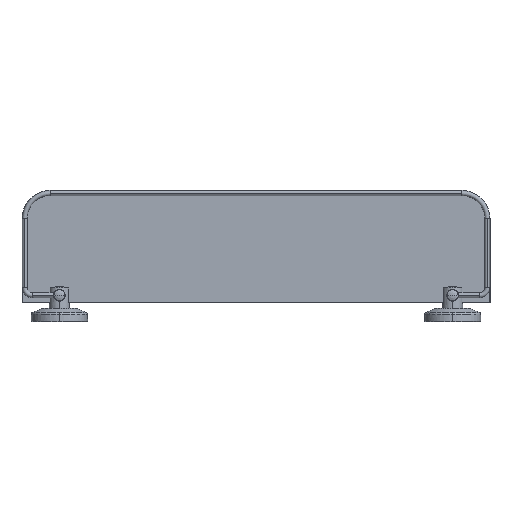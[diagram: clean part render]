
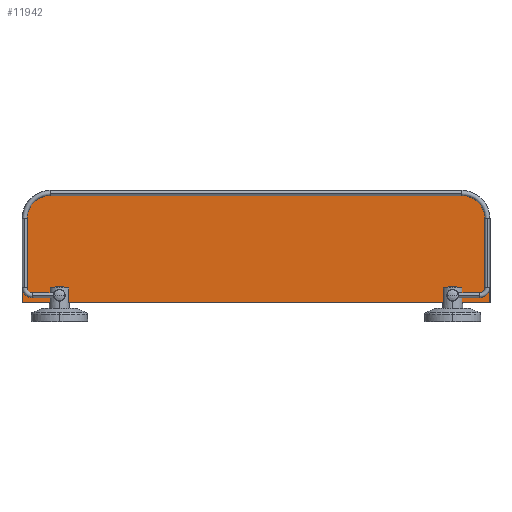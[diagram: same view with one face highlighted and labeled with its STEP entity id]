
A CAD part, top view. The second image highlights one B-rep face of the part: STEP entity #11942.
In plain terms, the highlighted planar face has unit normal (0, 0, 1).
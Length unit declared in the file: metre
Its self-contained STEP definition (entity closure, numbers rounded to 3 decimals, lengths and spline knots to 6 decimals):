
#11942=ADVANCED_FACE('',(#11948),#11943,.F.);
#11943=PLANE('',#11944);
#11944=AXIS2_PLACEMENT_3D('',#11945,#11946,#11947);
#11945=CARTESIAN_POINT('',(-0.21,0.0061,0.004));
#11946=DIRECTION('',(0.0,0.0,-1.0));
#11947=DIRECTION('',(1.0,0.0,0.0));
#11948=FACE_OUTER_BOUND('',#11949,.T.);
#11949=EDGE_LOOP('',(#11950,#11960,#11968,#11976,#11985,#11993));
#11950=ORIENTED_EDGE('',*,*,#11951,.T.);
#11951=EDGE_CURVE('',#11952,#11954,#11956,.T.);
#11952=VERTEX_POINT('',#11953);
#11953=CARTESIAN_POINT('',(-0.4595,0.0961,0.004));
#11954=VERTEX_POINT('',#11955);
#11955=CARTESIAN_POINT('',(-0.4595,0.0066,0.004));
#11956=LINE('',#11957,#11958);
#11957=CARTESIAN_POINT('',(-0.4595,0.0061,0.004));
#11958=VECTOR('',#11959,1.0);
#11959=DIRECTION('',(0.0,-1.0,0.0));
#11960=ORIENTED_EDGE('',*,*,#11961,.T.);
#11961=EDGE_CURVE('',#11954,#11962,#11964,.T.);
#11962=VERTEX_POINT('',#11963);
#11963=CARTESIAN_POINT('',(0.0395,0.0066,0.004));
#11964=LINE('',#11965,#11966);
#11965=CARTESIAN_POINT('',(-0.21,0.0066,0.004));
#11966=VECTOR('',#11967,1.0);
#11967=DIRECTION('',(1.0,0.0,0.0));
#11968=ORIENTED_EDGE('',*,*,#11969,.T.);
#11969=EDGE_CURVE('',#11962,#11970,#11972,.T.);
#11970=VERTEX_POINT('',#11971);
#11971=CARTESIAN_POINT('',(0.0395,0.0961,0.004));
#11972=LINE('',#11973,#11974);
#11973=CARTESIAN_POINT('',(0.0395,0.0061,0.004));
#11974=VECTOR('',#11975,1.0);
#11975=DIRECTION('',(0.0,1.0,0.0));
#11976=ORIENTED_EDGE('',*,*,#11977,.T.);
#11977=EDGE_CURVE('',#11970,#11978,#11980,.F.);
#11978=VERTEX_POINT('',#11979);
#11979=CARTESIAN_POINT('',(0.01,0.1256,0.004));
#11980=CIRCLE('',#11981,0.0295);
#11981=AXIS2_PLACEMENT_3D('',#11982,#11983,#11984);
#11982=CARTESIAN_POINT('',(0.01,0.0961,0.004));
#11983=DIRECTION('',(0.0,0.0,-1.0));
#11984=DIRECTION('',(-1.0,0.0,0.0));
#11985=ORIENTED_EDGE('',*,*,#11986,.T.);
#11986=EDGE_CURVE('',#11978,#11987,#11989,.T.);
#11987=VERTEX_POINT('',#11988);
#11988=CARTESIAN_POINT('',(-0.43,0.1256,0.004));
#11989=LINE('',#11990,#11991);
#11990=CARTESIAN_POINT('',(-0.21,0.1256,0.004));
#11991=VECTOR('',#11992,1.0);
#11992=DIRECTION('',(-1.0,0.0,0.0));
#11993=ORIENTED_EDGE('',*,*,#11994,.T.);
#11994=EDGE_CURVE('',#11987,#11952,#11995,.F.);
#11995=CIRCLE('',#11996,0.0295);
#11996=AXIS2_PLACEMENT_3D('',#11997,#11998,#11999);
#11997=CARTESIAN_POINT('',(-0.43,0.0961,0.004));
#11998=DIRECTION('',(0.0,0.0,-1.0));
#11999=DIRECTION('',(-1.0,0.0,0.0));
